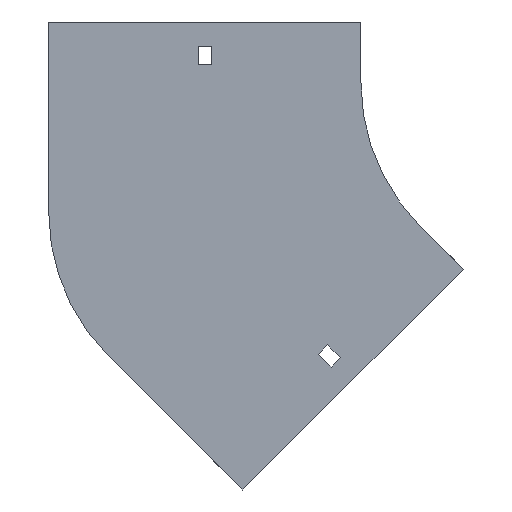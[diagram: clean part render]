
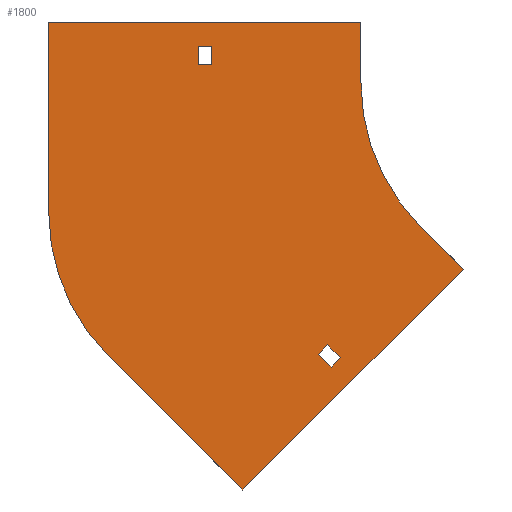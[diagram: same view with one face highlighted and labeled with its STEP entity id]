
A CAD part, front view. The second image highlights one B-rep face of the part: STEP entity #1800.
In plain terms, the highlighted planar face has unit normal (0, -1, 0).
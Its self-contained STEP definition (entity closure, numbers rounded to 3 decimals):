
#8 = ORIENTED_EDGE ( 'NONE', *, *, #1057, .F. ) ;
#9 = CARTESIAN_POINT ( 'NONE',  ( -158.392, 0., -200.818 ) ) ;
#20 = VECTOR ( 'NONE', #118, 1000. ) ;
#29 = CARTESIAN_POINT ( 'NONE',  ( -254., 0., -63.789 ) ) ;
#54 = VECTOR ( 'NONE', #388, 1000. ) ;
#56 = EDGE_CURVE ( 'NONE', #834, #723, #347, .T. ) ;
#65 = EDGE_CURVE ( 'NONE', #979, #1348, #616, .T. ) ;
#95 = CARTESIAN_POINT ( 'NONE',  ( -180.25, 0., 9. ) ) ;
#103 = FACE_OUTER_BOUND ( 'NONE', #1582, .T. ) ;
#107 = DIRECTION ( 'NONE',  ( 0., 0., 1. ) ) ;
#115 = EDGE_CURVE ( 'NONE', #1152, #834, #1884, .T. ) ;
#118 = DIRECTION ( 'NONE',  ( 1., 0., 0. ) ) ;
#123 = DIRECTION ( 'NONE',  ( 0., 0., 1. ) ) ;
#128 = ORIENTED_EDGE ( 'NONE', *, *, #1827, .T. ) ;
#152 = VERTEX_POINT ( 'NONE', #1277 ) ;
#159 = VECTOR ( 'NONE', #897, 1000. ) ;
#187 = DIRECTION ( 'NONE',  ( -1., 0., 0. ) ) ;
#208 = CARTESIAN_POINT ( 'NONE',  ( -70.711, 0., -70.711 ) ) ;
#248 = VERTEX_POINT ( 'NONE', #283 ) ;
#253 = LINE ( 'NONE', #839, #274 ) ;
#274 = VECTOR ( 'NONE', #1615, 1000. ) ;
#283 = CARTESIAN_POINT ( 'NONE',  ( -116.496, 0., -129.224 ) ) ;
#299 = CARTESIAN_POINT ( 'NONE',  ( -114.728, 0., -140.184 ) ) ;
#347 = LINE ( 'NONE', #1812, #1083 ) ;
#364 = EDGE_CURVE ( 'NONE', #1348, #152, #437, .T. ) ;
#386 = ORIENTED_EDGE ( 'NONE', *, *, #1659, .F. ) ;
#388 = DIRECTION ( 'NONE',  ( -0.707, 0., 0.707 ) ) ;
#393 = FACE_BOUND ( 'NONE', #1011, .T. ) ;
#437 = LINE ( 'NONE', #994, #20 ) ;
#470 = EDGE_CURVE ( 'NONE', #1694, #499, #748, .T. ) ;
#494 = CIRCLE ( 'NONE', #524, 100. ) ;
#499 = VERTEX_POINT ( 'NONE', #1065 ) ;
#500 = CARTESIAN_POINT ( 'NONE',  ( -158.392, 0., -200.818 ) ) ;
#516 = VERTEX_POINT ( 'NONE', #299 ) ;
#524 = AXIS2_PLACEMENT_3D ( 'NONE', #1294, #1313, #107 ) ;
#529 = EDGE_CURVE ( 'NONE', #723, #558, #1855, .T. ) ;
#537 = ORIENTED_EDGE ( 'NONE', *, *, #815, .F. ) ;
#544 = DIRECTION ( 'NONE',  ( -0.707, 0., -0.707 ) ) ;
#558 = VERTEX_POINT ( 'NONE', #1400 ) ;
#571 = VERTEX_POINT ( 'NONE', #1871 ) ;
#572 = PLANE ( 'NONE',  #968 ) ;
#590 = VECTOR ( 'NONE', #123, 1000. ) ;
#616 = LINE ( 'NONE', #896, #1266 ) ;
#637 = DIRECTION ( 'NONE',  ( 0., 0., -1. ) ) ;
#651 = LINE ( 'NONE', #1243, #1402 ) ;
#656 = ORIENTED_EDGE ( 'NONE', *, *, #65, .F. ) ;
#670 = CARTESIAN_POINT ( 'NONE',  ( -173.75, 0., 9. ) ) ;
#685 = EDGE_LOOP ( 'NONE', ( #128, #1681, #1001, #1201 ) ) ;
#706 = DIRECTION ( 'NONE',  ( 0., 0., -1. ) ) ;
#723 = VERTEX_POINT ( 'NONE', #9 ) ;
#733 = ORIENTED_EDGE ( 'NONE', *, *, #1643, .F. ) ;
#748 = LINE ( 'NONE', #1335, #1236 ) ;
#754 = DIRECTION ( 'NONE',  ( 0., 0., -1. ) ) ;
#758 = VERTEX_POINT ( 'NONE', #1092 ) ;
#766 = LINE ( 'NONE', #918, #1278 ) ;
#780 = ORIENTED_EDGE ( 'NONE', *, *, #364, .F. ) ;
#815 = EDGE_CURVE ( 'NONE', #1639, #516, #651, .T. ) ;
#834 = VERTEX_POINT ( 'NONE', #949 ) ;
#839 = CARTESIAN_POINT ( 'NONE',  ( -116.496, 0., -129.224 ) ) ;
#884 = CARTESIAN_POINT ( 'NONE',  ( -180.25, 0., 18. ) ) ;
#891 = ORIENTED_EDGE ( 'NONE', *, *, #909, .F. ) ;
#896 = CARTESIAN_POINT ( 'NONE',  ( -254., 0., -63.789 ) ) ;
#897 = DIRECTION ( 'NONE',  ( 1., 0., 0. ) ) ;
#909 = EDGE_CURVE ( 'NONE', #248, #1639, #1415, .T. ) ;
#918 = CARTESIAN_POINT ( 'NONE',  ( -100., 0., 30. ) ) ;
#949 = CARTESIAN_POINT ( 'NONE',  ( -49.497, 0., -91.924 ) ) ;
#968 = AXIS2_PLACEMENT_3D ( 'NONE', #1169, #1611, #706 ) ;
#970 = LINE ( 'NONE', #1109, #1310 ) ;
#979 = VERTEX_POINT ( 'NONE', #29 ) ;
#994 = CARTESIAN_POINT ( 'NONE',  ( -254., 0., 30. ) ) ;
#1001 = ORIENTED_EDGE ( 'NONE', *, *, #1192, .T. ) ;
#1002 = VERTEX_POINT ( 'NONE', #1195 ) ;
#1011 = EDGE_LOOP ( 'NONE', ( #386, #537, #891, #1933 ) ) ;
#1016 = CARTESIAN_POINT ( 'NONE',  ( 0., 0., 0. ) ) ;
#1045 = DIRECTION ( 'NONE',  ( -0.707, 0., -0.707 ) ) ;
#1056 = ORIENTED_EDGE ( 'NONE', *, *, #56, .F. ) ;
#1057 = EDGE_CURVE ( 'NONE', #1002, #1152, #1173, .T. ) ;
#1065 = CARTESIAN_POINT ( 'NONE',  ( -180.25, 0., 9. ) ) ;
#1083 = VECTOR ( 'NONE', #1045, 1000. ) ;
#1092 = CARTESIAN_POINT ( 'NONE',  ( -110.132, 0., -135.588 ) ) ;
#1109 = CARTESIAN_POINT ( 'NONE',  ( -114.728, 0., -140.184 ) ) ;
#1122 = CARTESIAN_POINT ( 'NONE',  ( -173.75, 0., 18. ) ) ;
#1147 = VERTEX_POINT ( 'NONE', #1122 ) ;
#1152 = VERTEX_POINT ( 'NONE', #1865 ) ;
#1153 = DIRECTION ( 'NONE',  ( 0., 0., -1. ) ) ;
#1169 = CARTESIAN_POINT ( 'NONE',  ( 0., 0., 0. ) ) ;
#1173 = CIRCLE ( 'NONE', #1750, 100. ) ;
#1192 = EDGE_CURVE ( 'NONE', #1147, #1694, #1382, .T. ) ;
#1195 = CARTESIAN_POINT ( 'NONE',  ( -100., 0., 0. ) ) ;
#1201 = ORIENTED_EDGE ( 'NONE', *, *, #470, .T. ) ;
#1233 = EDGE_CURVE ( 'NONE', #758, #248, #253, .T. ) ;
#1235 = EDGE_CURVE ( 'NONE', #558, #979, #494, .T. ) ;
#1236 = VECTOR ( 'NONE', #187, 1000. ) ;
#1243 = CARTESIAN_POINT ( 'NONE',  ( -121.092, 0., -133.82 ) ) ;
#1266 = VECTOR ( 'NONE', #1383, 1000. ) ;
#1273 = ORIENTED_EDGE ( 'NONE', *, *, #115, .F. ) ;
#1277 = CARTESIAN_POINT ( 'NONE',  ( -100., 0., 30. ) ) ;
#1278 = VECTOR ( 'NONE', #754, 1000. ) ;
#1281 = LINE ( 'NONE', #95, #590 ) ;
#1294 = CARTESIAN_POINT ( 'NONE',  ( -154., 0., -63.789 ) ) ;
#1310 = VECTOR ( 'NONE', #1713, 1000. ) ;
#1313 = DIRECTION ( 'NONE',  ( 0., 1., 0. ) ) ;
#1335 = CARTESIAN_POINT ( 'NONE',  ( -180.25, 0., 9. ) ) ;
#1344 = ORIENTED_EDGE ( 'NONE', *, *, #529, .F. ) ;
#1348 = VERTEX_POINT ( 'NONE', #1605 ) ;
#1382 = LINE ( 'NONE', #670, #1622 ) ;
#1383 = DIRECTION ( 'NONE',  ( 0., 0., 1. ) ) ;
#1400 = CARTESIAN_POINT ( 'NONE',  ( -224.711, 0., -134.5 ) ) ;
#1402 = VECTOR ( 'NONE', #1859, 1000. ) ;
#1415 = LINE ( 'NONE', #1751, #1648 ) ;
#1425 = CARTESIAN_POINT ( 'NONE',  ( -173.75, 0., 9. ) ) ;
#1430 = DIRECTION ( 'NONE',  ( 0.707, 0., -0.707 ) ) ;
#1504 = CARTESIAN_POINT ( 'NONE',  ( -121.092, 0., -133.82 ) ) ;
#1582 = EDGE_LOOP ( 'NONE', ( #780, #656, #1674, #1344, #1056, #1273, #8, #733 ) ) ;
#1594 = FACE_BOUND ( 'NONE', #685, .T. ) ;
#1605 = CARTESIAN_POINT ( 'NONE',  ( -254., 0., 30. ) ) ;
#1611 = DIRECTION ( 'NONE',  ( 0., -1., 0. ) ) ;
#1615 = DIRECTION ( 'NONE',  ( -0.707, 0., 0.707 ) ) ;
#1619 = DIRECTION ( 'NONE',  ( 0., -1., 0. ) ) ;
#1622 = VECTOR ( 'NONE', #637, 1000. ) ;
#1639 = VERTEX_POINT ( 'NONE', #1504 ) ;
#1643 = EDGE_CURVE ( 'NONE', #152, #1002, #766, .T. ) ;
#1648 = VECTOR ( 'NONE', #544, 1000. ) ;
#1659 = EDGE_CURVE ( 'NONE', #516, #758, #970, .T. ) ;
#1674 = ORIENTED_EDGE ( 'NONE', *, *, #1235, .F. ) ;
#1681 = ORIENTED_EDGE ( 'NONE', *, *, #1928, .T. ) ;
#1694 = VERTEX_POINT ( 'NONE', #1425 ) ;
#1713 = DIRECTION ( 'NONE',  ( 0.707, 0., 0.707 ) ) ;
#1750 = AXIS2_PLACEMENT_3D ( 'NONE', #1016, #1619, #1153 ) ;
#1751 = CARTESIAN_POINT ( 'NONE',  ( -121.092, 0., -133.82 ) ) ;
#1777 = VECTOR ( 'NONE', #1430, 1000. ) ;
#1793 = LINE ( 'NONE', #884, #159 ) ;
#1800 = ADVANCED_FACE ( 'NONE', ( #1594, #103, #393 ), #572, .T. ) ;
#1812 = CARTESIAN_POINT ( 'NONE',  ( -49.497, 0., -91.924 ) ) ;
#1827 = EDGE_CURVE ( 'NONE', #499, #571, #1281, .T. ) ;
#1855 = LINE ( 'NONE', #500, #54 ) ;
#1859 = DIRECTION ( 'NONE',  ( 0.707, 0., -0.707 ) ) ;
#1865 = CARTESIAN_POINT ( 'NONE',  ( -70.711, 0., -70.711 ) ) ;
#1871 = CARTESIAN_POINT ( 'NONE',  ( -180.25, 0., 18. ) ) ;
#1884 = LINE ( 'NONE', #208, #1777 ) ;
#1928 = EDGE_CURVE ( 'NONE', #571, #1147, #1793, .T. ) ;
#1933 = ORIENTED_EDGE ( 'NONE', *, *, #1233, .F. ) ;
